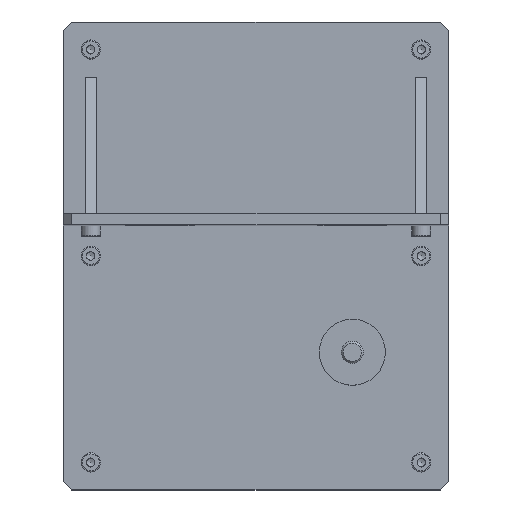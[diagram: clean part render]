
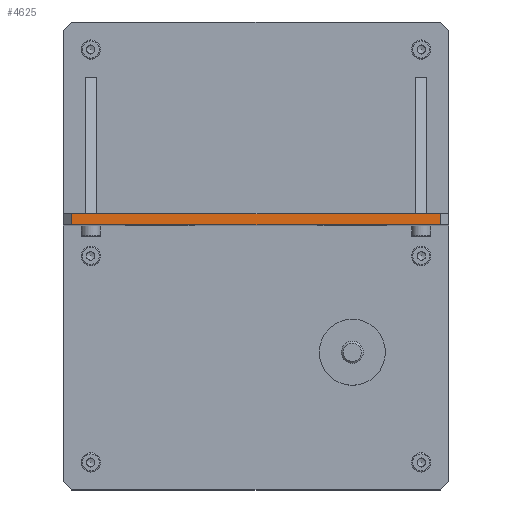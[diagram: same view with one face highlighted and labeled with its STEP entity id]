
A CAD part, top view. The second image highlights one B-rep face of the part: STEP entity #4625.
In plain terms, the highlighted planar face has unit normal (0, 0, 1) as drawn and (0, 1, 0) by its records, which use the part's own axes.
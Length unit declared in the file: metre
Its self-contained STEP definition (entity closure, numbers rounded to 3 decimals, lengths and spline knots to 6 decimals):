
#374=LINE('',#7298,#869);
#376=LINE('',#7302,#871);
#377=LINE('',#7304,#872);
#378=LINE('',#7306,#873);
#869=VECTOR('',#5986,1.);
#871=VECTOR('',#5990,1.);
#872=VECTOR('',#5991,1.);
#873=VECTOR('',#5992,1.);
#1979=ORIENTED_EDGE('',*,*,#2822,.F.);
#1980=ORIENTED_EDGE('',*,*,#2823,.F.);
#1981=ORIENTED_EDGE('',*,*,#2824,.T.);
#1982=ORIENTED_EDGE('',*,*,#2820,.T.);
#2820=EDGE_CURVE('',#3312,#3311,#374,.T.);
#2822=EDGE_CURVE('',#3313,#3311,#376,.T.);
#2823=EDGE_CURVE('',#3314,#3313,#377,.T.);
#2824=EDGE_CURVE('',#3314,#3312,#378,.T.);
#3311=VERTEX_POINT('',#7297);
#3312=VERTEX_POINT('',#7299);
#3313=VERTEX_POINT('',#7303);
#3314=VERTEX_POINT('',#7305);
#3777=EDGE_LOOP('',(#1979,#1980,#1981,#1982));
#4134=FACE_BOUND('',#3777,.T.);
#4385=PLANE('',#5052);
#4625=ADVANCED_FACE('',(#4134),#4385,.T.);
#5052=AXIS2_PLACEMENT_3D('',#7301,#5988,#5989);
#5986=DIRECTION('',(0.,0.,1.));
#5988=DIRECTION('',(0.,1.,0.));
#5989=DIRECTION('',(0.,0.,1.));
#5990=DIRECTION('',(-1.,0.,0.));
#5991=DIRECTION('',(0.,0.,1.));
#5992=DIRECTION('',(-1.,0.,0.));
#7297=CARTESIAN_POINT('',(-0.067,0.1,0.));
#7298=CARTESIAN_POINT('',(-0.067,0.1,-0.004));
#7299=CARTESIAN_POINT('',(-0.067,0.1,-0.004));
#7301=CARTESIAN_POINT('',(-0.067,0.1,-0.004));
#7302=CARTESIAN_POINT('',(-0.067,0.1,0.));
#7303=CARTESIAN_POINT('',(0.067,0.1,0.));
#7304=CARTESIAN_POINT('',(0.067,0.1,-0.004));
#7305=CARTESIAN_POINT('',(0.067,0.1,-0.004));
#7306=CARTESIAN_POINT('',(-0.067,0.1,-0.004));
